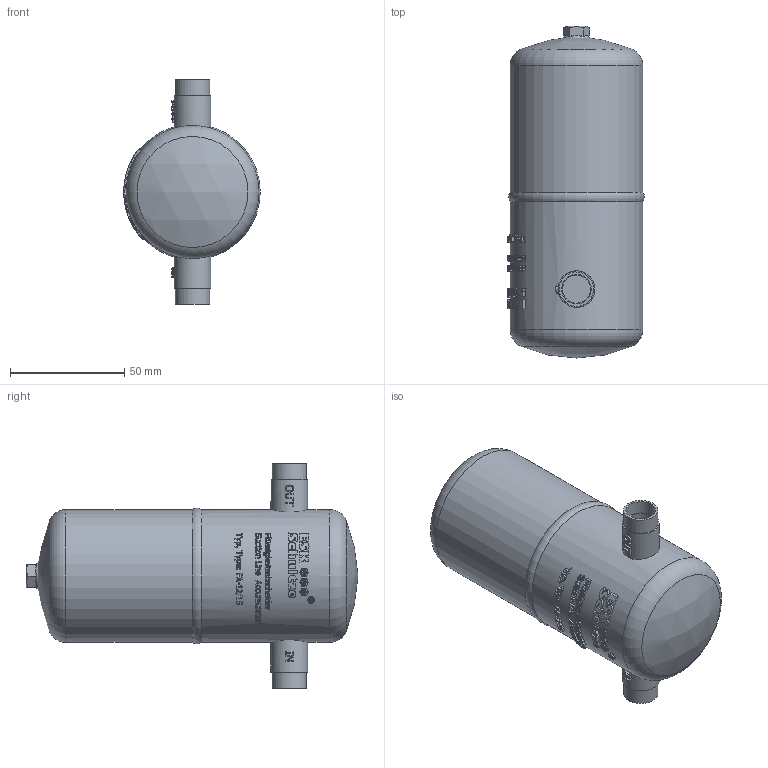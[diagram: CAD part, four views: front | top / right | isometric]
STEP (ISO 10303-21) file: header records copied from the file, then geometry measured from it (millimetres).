
FILE_DESCRIPTION(/* description */ (''),/* implementation_level */ '2;1');
FILE_NAME(/* name */ 'P:\FA\FA-12_15\FA-12_15.stp',/* time_stamp */ '2017-10-04T15:53:29+02:00',/* author */ ('neufeld'),/* organization */ (''),/* preprocessor_version */ 'ST-DEVELOPER v16.1',/* originating_system */ 'Autodesk Inventor 2016',/* authorisation */ '');
FILE_SCHEMA (('AUTOMOTIVE_DESIGN { 1 0 10303 214 3 1 1 }'));
Length unit declared in the file: millimetre
Products named in the file (2): FA-12_15; FA-12_15_1
Assembly tree (1 placements, depth 2):
  FA-12_15_1
    FA-12_15
Bounding box: 59.58 x 145 x 98 mm (x, y, z)
Volume: 354784.6 mm3; surface area: 32297.3 mm2
Topology: 1 solids, 1 shells, 1381 faces, 3784 edges, 2524 vertices
Faces by surface type: plane 750, bspline 494, cylinder 121, cone 9, torus 4, sphere 3
Full cylindrical faces by diameter (mm): 4.917 x1, 12.2 x2, 12.9 x2, 15 x2, 16 x2, 58 x2
Entity records: 52854 total; most frequent: CARTESIAN_POINT 20430, ORIENTED_EDGE 7520, DIRECTION 5418, EDGE_CURVE 3760, VERTEX_POINT 2519, LINE 1836, VECTOR 1836, AXIS2_PLACEMENT_3D 1791
